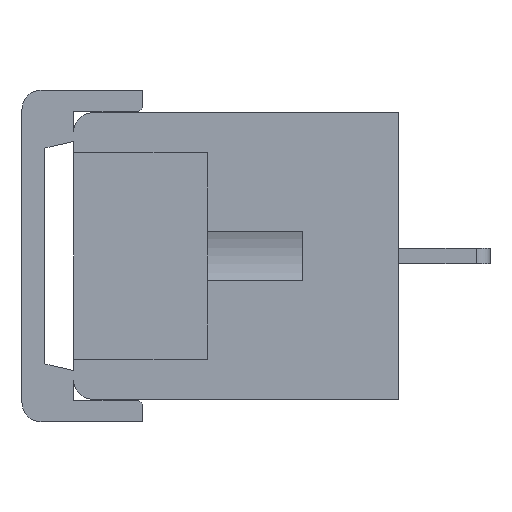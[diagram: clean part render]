
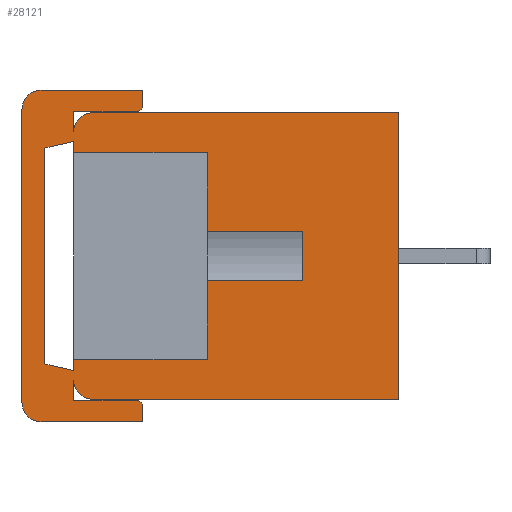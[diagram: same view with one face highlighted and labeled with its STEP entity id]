
A CAD part, left-side view. The second image highlights one B-rep face of the part: STEP entity #28121.
In plain terms, the highlighted planar face has unit normal (-1, 0, 0).
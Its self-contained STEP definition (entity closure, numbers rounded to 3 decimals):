
#67=DIRECTION('',(0.,1.,0.));
#68=VECTOR('',#67,3.4);
#69=CARTESIAN_POINT('',(9.5,13.6,0.05));
#70=LINE('',#69,#68);
#197=DIRECTION('',(0.,0.,-1.));
#198=VECTOR('',#197,0.925);
#199=CARTESIAN_POINT('',(9.5,13.4,1.175));
#200=LINE('',#199,#198);
#205=DIRECTION('',(0.,-1.,0.));
#206=VECTOR('',#205,5.3);
#207=CARTESIAN_POINT('',(9.5,18.7,1.175));
#208=LINE('',#207,#206);
#221=DIRECTION('',(0.,0.,1.));
#222=VECTOR('',#221,15.35);
#223=CARTESIAN_POINT('',(9.5,19.7,-15.175));
#224=LINE('',#223,#222);
#237=DIRECTION('',(0.,1.,0.));
#238=VECTOR('',#237,5.3);
#239=CARTESIAN_POINT('',(9.5,13.4,-16.175));
#240=LINE('',#239,#238);
#253=DIRECTION('',(0.,0.,-1.));
#254=VECTOR('',#253,0.925);
#255=CARTESIAN_POINT('',(9.5,13.4,-15.25));
#256=LINE('',#255,#254);
#309=DIRECTION('',(0.,-1.,0.));
#310=VECTOR('',#309,3.4);
#311=CARTESIAN_POINT('',(9.5,17.,-15.05));
#312=LINE('',#311,#310);
#477=DIRECTION('',(0.,0.,-1.));
#478=VECTOR('',#477,1.05);
#479=CARTESIAN_POINT('',(9.5,17.,-14.));
#480=LINE('',#479,#478);
#566=DIRECTION('',(0.,0.,-1.));
#567=VECTOR('',#566,1.05);
#568=CARTESIAN_POINT('',(9.5,17.,0.05));
#569=LINE('',#568,#567);
#753=DIRECTION('',(0.,1.,0.));
#754=VECTOR('',#753,16.);
#755=CARTESIAN_POINT('',(9.5,0.,-15.));
#756=LINE('',#755,#754);
#797=DIRECTION('',(0.,0.,-1.));
#798=VECTOR('',#797,15.);
#799=CARTESIAN_POINT('',(9.5,0.,0.));
#800=LINE('',#799,#798);
#1095=CARTESIAN_POINT('',(9.5,16.,-14.));
#1096=DIRECTION('',(-1.,0.,0.));
#1097=DIRECTION('',(0.,1.,0.));
#1098=AXIS2_PLACEMENT_3D('',#1095,#1096,#1097);
#1100=DIRECTION('',(0.,0.707,0.707));
#1101=VECTOR('',#1100,0.283);
#1102=CARTESIAN_POINT('',(9.5,13.4,-15.25));
#1103=LINE('',#1102,#1101);
#1104=CARTESIAN_POINT('',(9.5,18.7,-15.175));
#1105=DIRECTION('',(-1.,0.,0.));
#1106=DIRECTION('',(0.,1.,0.));
#1107=AXIS2_PLACEMENT_3D('',#1104,#1105,#1106);
#1109=CARTESIAN_POINT('',(9.5,18.7,0.175));
#1110=DIRECTION('',(-1.,0.,0.));
#1111=DIRECTION('',(0.,0.,1.));
#1112=AXIS2_PLACEMENT_3D('',#1109,#1110,#1111);
#1114=DIRECTION('',(0.,-0.707,0.707));
#1115=VECTOR('',#1114,0.283);
#1116=CARTESIAN_POINT('',(9.5,13.6,0.05));
#1117=LINE('',#1116,#1115);
#1118=CARTESIAN_POINT('',(9.5,16.,-1.));
#1119=DIRECTION('',(-1.,0.,0.));
#1120=DIRECTION('',(0.,0.,1.));
#1121=AXIS2_PLACEMENT_3D('',#1118,#1119,#1120);
#1123=DIRECTION('',(0.,1.,0.));
#1124=VECTOR('',#1123,16.);
#1125=CARTESIAN_POINT('',(9.5,0.,0.));
#1126=LINE('',#1125,#1124);
#1127=DIRECTION('',(0.,-0.974,0.227));
#1128=VECTOR('',#1127,1.54);
#1129=CARTESIAN_POINT('',(9.5,18.5,-1.85));
#1130=LINE('',#1129,#1128);
#1131=DIRECTION('',(0.,0.974,0.227));
#1132=VECTOR('',#1131,1.54);
#1133=CARTESIAN_POINT('',(9.5,17.,-13.5));
#1134=LINE('',#1133,#1132);
#8150=DIRECTION('',(0.,0.,1.));
#8151=VECTOR('',#8150,0.6);
#8152=CARTESIAN_POINT('',(9.5,17.,-2.1));
#8153=LINE('',#8152,#8151);
#8158=DIRECTION('',(0.,0.,1.));
#8159=VECTOR('',#8158,0.6);
#8160=CARTESIAN_POINT('',(9.5,17.,-13.5));
#8161=LINE('',#8160,#8159);
#8170=DIRECTION('',(0.,1.,0.));
#8171=VECTOR('',#8170,7.);
#8172=CARTESIAN_POINT('',(9.5,10.,-2.1));
#8173=LINE('',#8172,#8171);
#8178=DIRECTION('',(0.,0.,1.));
#8179=VECTOR('',#8178,4.101);
#8180=CARTESIAN_POINT('',(9.5,10.,-6.201));
#8181=LINE('',#8180,#8179);
#8192=DIRECTION('',(0.,0.,1.));
#8193=VECTOR('',#8192,4.101);
#8194=CARTESIAN_POINT('',(9.5,10.,-12.9));
#8195=LINE('',#8194,#8193);
#8200=DIRECTION('',(0.,-1.,0.));
#8201=VECTOR('',#8200,5.);
#8202=CARTESIAN_POINT('',(9.5,10.,-8.799));
#8203=LINE('',#8202,#8201);
#8204=DIRECTION('',(0.,1.,0.));
#8205=VECTOR('',#8204,5.);
#8206=CARTESIAN_POINT('',(9.5,5.,-6.201));
#8207=LINE('',#8206,#8205);
#8213=DIRECTION('',(0.,0.,1.));
#8214=VECTOR('',#8213,2.598);
#8215=CARTESIAN_POINT('',(9.5,5.,-8.799));
#8216=LINE('',#8215,#8214);
#8222=DIRECTION('',(0.,-1.,0.));
#8223=VECTOR('',#8222,7.);
#8224=CARTESIAN_POINT('',(9.5,17.,-12.9));
#8225=LINE('',#8224,#8223);
#8262=DIRECTION('',(0.,0.,-1.));
#8263=VECTOR('',#8262,11.3);
#8264=CARTESIAN_POINT('',(9.5,18.5,-1.85));
#8265=LINE('',#8264,#8263);
#22255=CARTESIAN_POINT('',(9.5,0.,0.));
#22256=CARTESIAN_POINT('',(9.5,16.,0.));
#22257=VERTEX_POINT('',#22255);
#22258=VERTEX_POINT('',#22256);
#22279=CARTESIAN_POINT('',(9.5,17.,-12.9));
#22280=CARTESIAN_POINT('',(9.5,10.,-12.9));
#22281=VERTEX_POINT('',#22279);
#22282=VERTEX_POINT('',#22280);
#22283=CARTESIAN_POINT('',(9.5,10.,-8.799));
#22284=VERTEX_POINT('',#22283);
#22285=CARTESIAN_POINT('',(9.5,5.,-8.799));
#22286=VERTEX_POINT('',#22285);
#22287=CARTESIAN_POINT('',(9.5,5.,-6.201));
#22288=VERTEX_POINT('',#22287);
#22289=CARTESIAN_POINT('',(9.5,10.,-6.201));
#22290=VERTEX_POINT('',#22289);
#22291=CARTESIAN_POINT('',(9.5,10.,-2.1));
#22292=VERTEX_POINT('',#22291);
#22293=CARTESIAN_POINT('',(9.5,17.,-2.1));
#22294=VERTEX_POINT('',#22293);
#22295=CARTESIAN_POINT('',(9.5,0.,-15.));
#22296=VERTEX_POINT('',#22295);
#22297=CARTESIAN_POINT('',(9.5,16.,-15.));
#22298=VERTEX_POINT('',#22297);
#23404=CARTESIAN_POINT('',(9.5,13.4,-15.25));
#23405=CARTESIAN_POINT('',(9.5,13.6,-15.05));
#23406=VERTEX_POINT('',#23404);
#23407=VERTEX_POINT('',#23405);
#23408=CARTESIAN_POINT('',(9.5,13.4,-16.175));
#23409=VERTEX_POINT('',#23408);
#23410=CARTESIAN_POINT('',(9.5,18.7,-16.175));
#23411=VERTEX_POINT('',#23410);
#23412=CARTESIAN_POINT('',(9.5,19.7,-15.175));
#23413=VERTEX_POINT('',#23412);
#23414=CARTESIAN_POINT('',(9.5,19.7,0.175));
#23415=VERTEX_POINT('',#23414);
#23416=CARTESIAN_POINT('',(9.5,18.7,1.175));
#23417=VERTEX_POINT('',#23416);
#23418=CARTESIAN_POINT('',(9.5,13.4,1.175));
#23419=VERTEX_POINT('',#23418);
#23420=CARTESIAN_POINT('',(9.5,13.4,0.25));
#23421=VERTEX_POINT('',#23420);
#23422=CARTESIAN_POINT('',(9.5,13.6,0.05));
#23423=VERTEX_POINT('',#23422);
#23424=CARTESIAN_POINT('',(9.5,17.,0.05));
#23425=VERTEX_POINT('',#23424);
#23426=CARTESIAN_POINT('',(9.5,18.5,-1.85));
#23427=CARTESIAN_POINT('',(9.5,18.5,-13.15));
#23428=VERTEX_POINT('',#23426);
#23429=VERTEX_POINT('',#23427);
#23430=CARTESIAN_POINT('',(9.5,17.,-15.05));
#23431=VERTEX_POINT('',#23430);
#25839=CARTESIAN_POINT('',(9.5,17.,-1.5));
#25841=VERTEX_POINT('',#25839);
#25843=CARTESIAN_POINT('',(9.5,17.,-13.5));
#25845=VERTEX_POINT('',#25843);
#25847=CARTESIAN_POINT('',(9.5,17.,-1.));
#25849=VERTEX_POINT('',#25847);
#25861=CARTESIAN_POINT('',(9.5,17.,-14.));
#25862=VERTEX_POINT('',#25861);
#28069=CARTESIAN_POINT('',(9.5,17.,0.));
#28070=DIRECTION('',(-1.,0.,0.));
#28071=DIRECTION('',(0.,-1.,0.));
#28072=AXIS2_PLACEMENT_3D('',#28069,#28070,#28071);
#28073=PLANE('',#28072);
#28075=ORIENTED_EDGE('',*,*,#28074,.F.);
#28076=ORIENTED_EDGE('',*,*,#27141,.T.);
#28077=ORIENTED_EDGE('',*,*,#26710,.T.);
#28078=ORIENTED_EDGE('',*,*,#26695,.F.);
#28079=ORIENTED_EDGE('',*,*,#26680,.T.);
#28080=ORIENTED_EDGE('',*,*,#26665,.T.);
#28081=ORIENTED_EDGE('',*,*,#26650,.F.);
#28082=ORIENTED_EDGE('',*,*,#26635,.T.);
#28083=ORIENTED_EDGE('',*,*,#26620,.F.);
#28084=ORIENTED_EDGE('',*,*,#26605,.T.);
#28085=ORIENTED_EDGE('',*,*,#26590,.T.);
#28086=ORIENTED_EDGE('',*,*,#26575,.F.);
#28087=ORIENTED_EDGE('',*,*,#26268,.T.);
#28088=ORIENTED_EDGE('',*,*,#27284,.T.);
#28090=ORIENTED_EDGE('',*,*,#28089,.F.);
#28091=ORIENTED_EDGE('',*,*,#26202,.F.);
#28092=ORIENTED_EDGE('',*,*,#27634,.T.);
#28093=ORIENTED_EDGE('',*,*,#27533,.T.);
#28094=EDGE_LOOP('',(#28075,#28076,#28077,#28078,#28079,#28080,#28081,#28082,
#28083,#28084,#28085,#28086,#28087,#28088,#28090,#28091,#28092,#28093));
#28095=FACE_OUTER_BOUND('',#28094,.F.);
#28097=ORIENTED_EDGE('',*,*,#28096,.T.);
#28098=ORIENTED_EDGE('',*,*,#27240,.F.);
#28100=ORIENTED_EDGE('',*,*,#28099,.T.);
#28102=ORIENTED_EDGE('',*,*,#28101,.F.);
#28104=ORIENTED_EDGE('',*,*,#28103,.T.);
#28106=ORIENTED_EDGE('',*,*,#28105,.T.);
#28108=ORIENTED_EDGE('',*,*,#28107,.T.);
#28110=ORIENTED_EDGE('',*,*,#28109,.T.);
#28112=ORIENTED_EDGE('',*,*,#28111,.T.);
#28114=ORIENTED_EDGE('',*,*,#28113,.T.);
#28116=ORIENTED_EDGE('',*,*,#28115,.T.);
#28118=ORIENTED_EDGE('',*,*,#28117,.T.);
#28119=EDGE_LOOP('',(#28097,#28098,#28100,#28102,#28104,#28106,#28108,#28110,
#28112,#28114,#28116,#28118));
#28120=FACE_BOUND('',#28119,.F.);
#28121=ADVANCED_FACE('',(#28095,#28120),#28073,.T.);
#1099=CIRCLE('',#1098,1.);
#1108=CIRCLE('',#1107,1.);
#1113=CIRCLE('',#1112,1.);
#1122=CIRCLE('',#1121,1.);
#26202=EDGE_CURVE('',#22257,#22258,#1126,.T.);
#26268=EDGE_CURVE('',#23423,#23425,#70,.T.);
#26575=EDGE_CURVE('',#23423,#23421,#1117,.T.);
#26590=EDGE_CURVE('',#23419,#23421,#200,.T.);
#26605=EDGE_CURVE('',#23417,#23419,#208,.T.);
#26620=EDGE_CURVE('',#23417,#23415,#1113,.T.);
#26635=EDGE_CURVE('',#23413,#23415,#224,.T.);
#26650=EDGE_CURVE('',#23413,#23411,#1108,.T.);
#26665=EDGE_CURVE('',#23409,#23411,#240,.T.);
#26680=EDGE_CURVE('',#23406,#23409,#256,.T.);
#26695=EDGE_CURVE('',#23406,#23407,#1103,.T.);
#26710=EDGE_CURVE('',#23431,#23407,#312,.T.);
#27141=EDGE_CURVE('',#25862,#23431,#480,.T.);
#27240=EDGE_CURVE('',#23428,#25841,#1130,.T.);
#27284=EDGE_CURVE('',#23425,#25849,#569,.T.);
#27533=EDGE_CURVE('',#22296,#22298,#756,.T.);
#27634=EDGE_CURVE('',#22257,#22296,#800,.T.);
#28074=EDGE_CURVE('',#25862,#22298,#1099,.T.);
#28089=EDGE_CURVE('',#22258,#25849,#1122,.T.);
#28096=EDGE_CURVE('',#22294,#25841,#8153,.T.);
#28099=EDGE_CURVE('',#23428,#23429,#8265,.T.);
#28101=EDGE_CURVE('',#25845,#23429,#1134,.T.);
#28103=EDGE_CURVE('',#25845,#22281,#8161,.T.);
#28105=EDGE_CURVE('',#22281,#22282,#8225,.T.);
#28107=EDGE_CURVE('',#22282,#22284,#8195,.T.);
#28109=EDGE_CURVE('',#22284,#22286,#8203,.T.);
#28111=EDGE_CURVE('',#22286,#22288,#8216,.T.);
#28113=EDGE_CURVE('',#22288,#22290,#8207,.T.);
#28115=EDGE_CURVE('',#22290,#22292,#8181,.T.);
#28117=EDGE_CURVE('',#22292,#22294,#8173,.T.);
